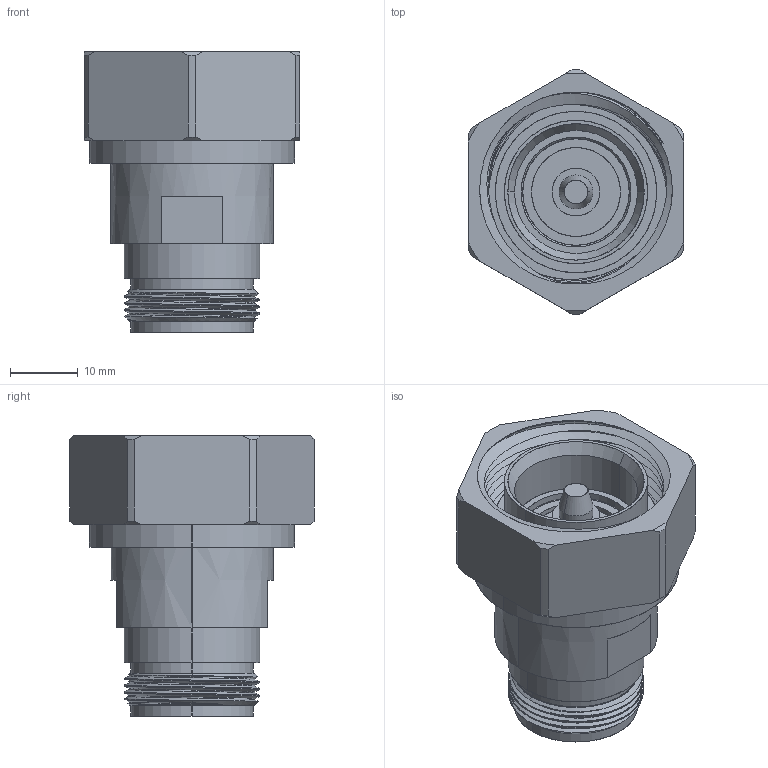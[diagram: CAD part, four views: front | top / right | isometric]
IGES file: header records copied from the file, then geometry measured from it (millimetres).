
Start section: SolidWorks IGES file using analytic representation for surfaces
Global section: file name: E:\Solidworks\Sketches\Shannon\1_MODELS_WEB\4.1_9.5\2234000Q001-281\2234000Q001-281igs.IGS; native system: SolidWorks 2014; preprocessor: SolidWorks 2014; author: sculpepper; date: 151123.083131; units: inch
Bounding box: 31.75 x 36.02 x 41.28 mm (x, y, z)
Surface area: 9142.1 mm2 (no closed solid volume)
Topology: 0 solids, 0 shells, 161 faces, 2981 edges, 3380 vertices
Faces by surface type: revolution 108, bspline 53
